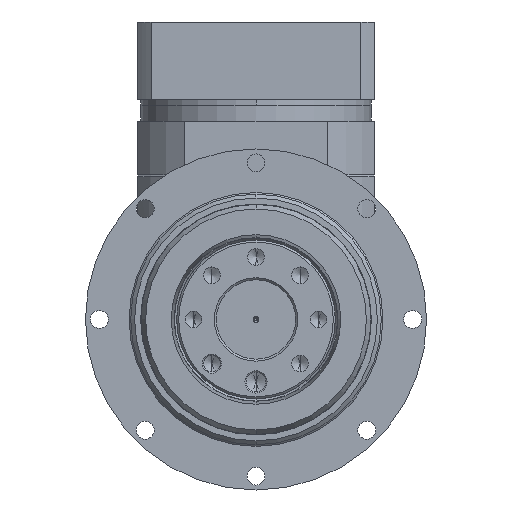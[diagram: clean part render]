
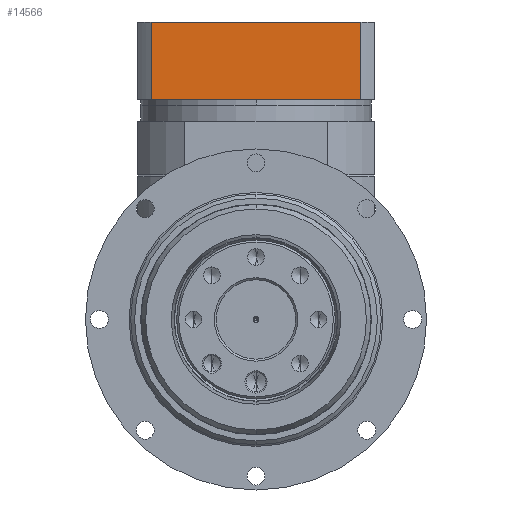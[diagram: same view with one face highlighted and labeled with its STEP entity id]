
A CAD part, left-side view. The second image highlights one B-rep face of the part: STEP entity #14566.
In plain terms, the highlighted planar face has unit normal (-1, 0, 0).
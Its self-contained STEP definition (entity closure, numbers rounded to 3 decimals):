
#5 = CARTESIAN_POINT ( 'NONE',  ( 15., 30., 75. ) ) ;
#203 = EDGE_LOOP ( 'NONE', ( #946, #1313, #14829, #10737 ) ) ;
#795 = VERTEX_POINT ( 'NONE', #7371 ) ;
#938 = VECTOR ( 'NONE', #2764, 1000. ) ;
#946 = ORIENTED_EDGE ( 'NONE', *, *, #12682, .T. ) ;
#1215 = LINE ( 'NONE', #14961, #11649 ) ;
#1313 = ORIENTED_EDGE ( 'NONE', *, *, #5076, .T. ) ;
#1894 = CARTESIAN_POINT ( 'NONE',  ( 15., -26.458, 55.5 ) ) ;
#2764 = DIRECTION ( 'NONE',  ( 0., -1., 0. ) ) ;
#3027 = AXIS2_PLACEMENT_3D ( 'NONE', #11429, #8775, #3309 ) ;
#3309 = DIRECTION ( 'NONE',  ( 0., -1., 0. ) ) ;
#4119 = DIRECTION ( 'NONE',  ( 0., 0., 1. ) ) ;
#4671 = VERTEX_POINT ( 'NONE', #1894 ) ;
#5004 = LINE ( 'NONE', #5, #938 ) ;
#5076 = EDGE_CURVE ( 'NONE', #13231, #4671, #14796, .T. ) ;
#5324 = VERTEX_POINT ( 'NONE', #7517 ) ;
#5682 = VECTOR ( 'NONE', #5919, 1000. ) ;
#5919 = DIRECTION ( 'NONE',  ( 0., -1., 0. ) ) ;
#7094 = DIRECTION ( 'NONE',  ( 0., 0., -1. ) ) ;
#7371 = CARTESIAN_POINT ( 'NONE',  ( 15., -26.458, 75. ) ) ;
#7517 = CARTESIAN_POINT ( 'NONE',  ( 15., 26.458, 75. ) ) ;
#7598 = VECTOR ( 'NONE', #7094, 1000. ) ;
#8401 = EDGE_CURVE ( 'NONE', #5324, #795, #5004, .T. ) ;
#8775 = DIRECTION ( 'NONE',  ( -1., 0., 0. ) ) ;
#10152 = FACE_OUTER_BOUND ( 'NONE', #203, .T. ) ;
#10737 = ORIENTED_EDGE ( 'NONE', *, *, #8401, .F. ) ;
#11323 = CARTESIAN_POINT ( 'NONE',  ( 15., 0., 55.5 ) ) ;
#11429 = CARTESIAN_POINT ( 'NONE',  ( 15., 30., -59.915 ) ) ;
#11649 = VECTOR ( 'NONE', #4119, 1000. ) ;
#11916 = EDGE_CURVE ( 'NONE', #4671, #795, #1215, .T. ) ;
#12483 = LINE ( 'NONE', #16656, #7598 ) ;
#12682 = EDGE_CURVE ( 'NONE', #5324, #13231, #12483, .T. ) ;
#13231 = VERTEX_POINT ( 'NONE', #14554 ) ;
#14073 = PLANE ( 'NONE',  #3027 ) ;
#14554 = CARTESIAN_POINT ( 'NONE',  ( 15., 26.458, 55.5 ) ) ;
#14566 = ADVANCED_FACE ( 'NONE', ( #10152 ), #14073, .T. ) ;
#14796 = LINE ( 'NONE', #11323, #5682 ) ;
#14829 = ORIENTED_EDGE ( 'NONE', *, *, #11916, .T. ) ;
#14961 = CARTESIAN_POINT ( 'NONE',  ( 15., -26.458, 52. ) ) ;
#16656 = CARTESIAN_POINT ( 'NONE',  ( 15., 26.458, 52. ) ) ;
